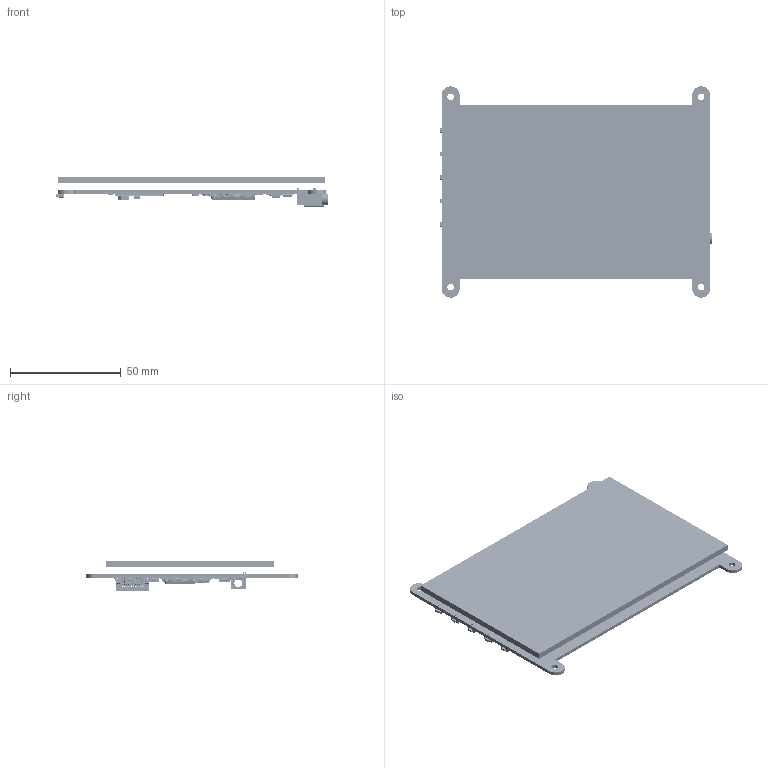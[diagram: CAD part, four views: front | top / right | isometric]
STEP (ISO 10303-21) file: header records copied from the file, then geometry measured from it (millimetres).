
FILE_DESCRIPTION(('Open CASCADE Model'),'2;1');
FILE_NAME('Open CASCADE Shape Model','2022-05-05T16:04:13',('Author'),( 'Open CASCADE'),'Open CASCADE STEP processor 6.8','Open CASCADE 6.8' ,'Unknown');
FILE_SCHEMA(('AUTOMOTIVE_DESIGN { 1 0 10303 214 1 1 1 1 }'));
Length unit declared in the file: millimetre
Products named in the file (150): PCB; Board; Open CASCADE STEP translator 6.8 1.1.1; R31; 6172188704; U4; User_Library-tssop-20-1; U5; SOT-23-5; U3; R30; 6172194224; R29; R28; R27; L3; L4x4; L2; FB2; 6172176464; C15; 6172192784; C14; C13; 6172190224; C11; C10; C9; Y1; crystal3225; P2; FPC6P; Open CASCADE STEP translator 6.8 1.20.1.1; Open CASCADE STEP translator 6.8 1.20.1.2; C1; 6172186064; C3; 6172185024; C2; C4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
Assembly tree (202 placements, depth 4):
  PCB
    Board
      Open CASCADE STEP translator 6.8 1.1.1
    R31
      6172188704
    U4
      User_Library-tssop-20-1
    U5
      SOT-23-5
    U3
      SOT-23-5
    R30
      6172194224
    R29
      6172194224
    R28
      6172194224
    R27
      6172194224
    L3
      L4x4
    L2
      L4x4
    FB2
      6172176464
    C15
      6172192784
    C14
      6172192784
    C13
      6172190224
    C11
      6172192784
    C10
      6172192784
    C9
      6172190224
    Y1
      crystal3225
    P2
      FPC6P
        Open CASCADE STEP translator 6.8 1.20.1.1
        Open CASCADE STEP translator 6.8 1.20.1.2
    C1
      6172186064
    C3
      6172185024
    C2
      6172186064
    C4
      6172185024
    C5
      6172186064
    C6
      6172186704
    C16
      6172192944
    C17
      6172182064
    C18
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Bounding box: 122.58 x 95.43 x 13.94 mm (x, y, z)
Volume: 42503.6 mm3; surface area: 63729.2 mm2
Topology: 193 solids, 193 shells, 14627 faces, 39164 edges, 24954 vertices
Faces by surface type: plane 8972, bspline 2925, cylinder 2484, sphere 224, cone 20, torus 2
Full cylindrical faces by diameter (mm): 0.7 x4, 0.8 x10, 0.9 x4, 1.4 x2, 3 x4
Entity records: 372280 total; most frequent: CARTESIAN_POINT 112511, ORIENTED_EDGE 50554, DIRECTION 43912, EDGE_CURVE 25277, LINE 20032, VECTOR 20032, VERTEX_POINT 16328, AXIS2_PLACEMENT_3D 11940
